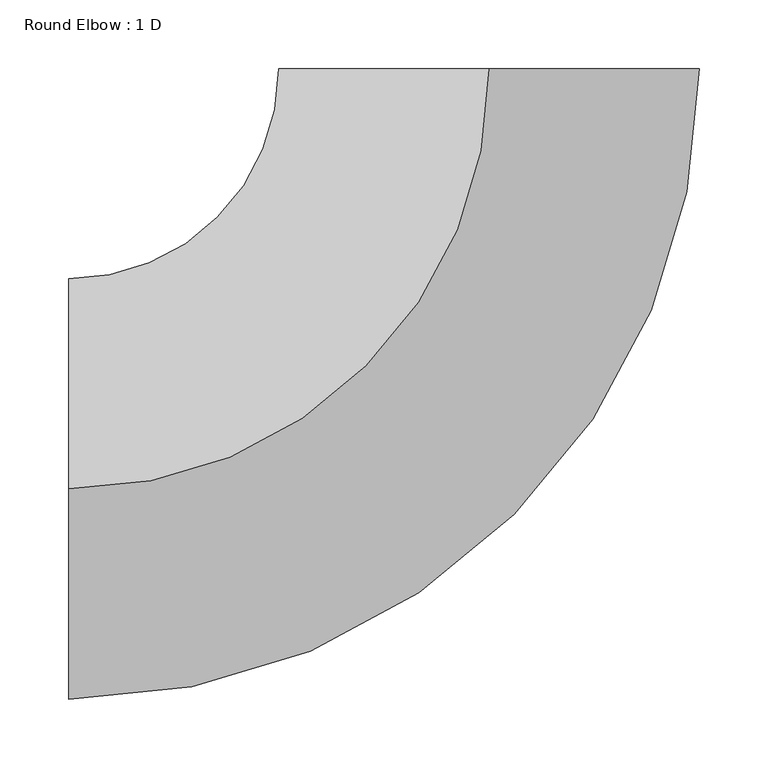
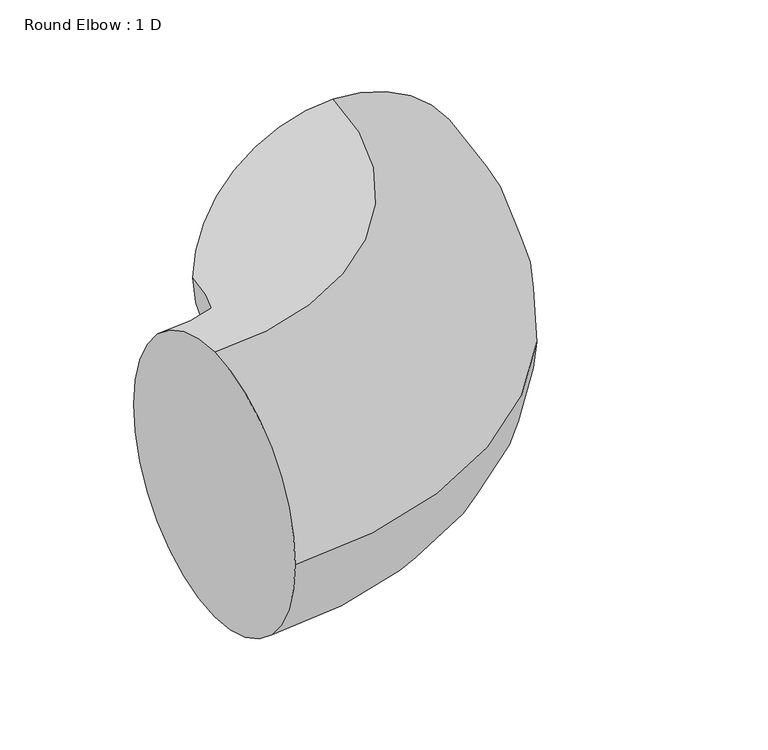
"""IFC4 building model written with IfcOpenShell, lengths in millimetres: duct fitting geometry, Round Elbow : 1 D."""

from ifc_helpers import new_model, si_unit, point, frame, origin, place, context, project, spatial, circle_curve, ellipse_curve, trimmed, source, transform, mapped, element, save
from ifc_brep_helpers import plane_surface, revolved_surface, advanced_brep


def round_elbow_1_d_281bc45b(model_context):
    return source(origin(), model_context, "Body", "AdvancedBrep", [
        advanced_brep(
        [(-304.8, 0.0, 152.4), (-304.8, 152.4, 0.0), (-304.8, 0.0, -152.4), (-304.8, -152.4, 0.0), (0.0, 304.8, 152.4), (152.4, 304.8, 0.0), (0.0, 304.8, -152.4), (-152.4, 304.8, 0.0)],
        [
            (0, 1, circle_curve(frame((-304.8, 0.0, 0.0), z_axis=(-1.0, 0.0, 0.0), x_axis=(0.0, 1.0, 0.0)), 152.4)),
            (1, 2, circle_curve(frame((-304.8, 0.0, 0.0), z_axis=(-1.0, 0.0, 0.0), x_axis=(0.0, 1.0, 0.0)), 152.4)),
            (2, 3, circle_curve(frame((-304.8, 0.0, 0.0), z_axis=(-1.0, 0.0, 0.0), x_axis=(0.0, 1.0, 0.0)), 152.4)),
            (3, 0, circle_curve(frame((-304.8, 0.0, 0.0), z_axis=(-1.0, 0.0, 0.0), x_axis=(0.0, 1.0, 0.0)), 152.4)),
            (4, 5, circle_curve(frame((0.0, 304.8, 0.0), z_axis=(0.0, 1.0, 0.0), x_axis=(-1.0, 0.0, 0.0)), 152.4)),
            (5, 6, circle_curve(frame((0.0, 304.8, 0.0), z_axis=(0.0, 1.0, 0.0), x_axis=(-1.0, 0.0, 0.0)), 152.4)),
            (6, 7, circle_curve(frame((0.0, 304.8, 0.0), z_axis=(0.0, 1.0, 0.0), x_axis=(-1.0, 0.0, 0.0)), 152.4)),
            (7, 4, circle_curve(frame((0.0, 304.8, 0.0), z_axis=(0.0, 1.0, 0.0), x_axis=(-1.0, 0.0, 0.0)), 152.4)),
            (7, 1, circle_curve(frame((-304.8, 304.8, 0.0), z_axis=(0.0, 0.0, -1.0), x_axis=(0.0, -1.0, 0.0)), 152.4)),
            (0, 4, circle_curve(frame((-304.8, 304.8, 152.4), z_axis=(0.0, 0.0, 1.0), x_axis=(0.0, -1.0, 0.0)), 304.8)),
            (6, 2, circle_curve(frame((-304.8, 304.8, -152.4), z_axis=(0.0, 0.0, -1.0), x_axis=(0.0, -1.0, 0.0)), 304.8)),
            (5, 3, circle_curve(frame((-304.8, 304.8, 0.0), z_axis=(0.0, 0.0, -1.0), x_axis=(0.0, -1.0, 0.0)), 457.2)),
        ],
        [
            plane_surface(frame((-304.8, 0.0, 0.0), z_axis=(-1.0, 0.0, 0.0), x_axis=(0.0, 0.0, 1.0))),
            plane_surface(frame((0.0, 304.8, 0.0), z_axis=(0.0, 1.0, 0.0), x_axis=(0.0, 0.0, 1.0))),
            revolved_surface(trimmed(ellipse_curve(frame((-304.8, 0.0, 0.0), z_axis=(-1.0, 0.0, 0.0), x_axis=(0.0, 1.0, 0.0)), 152.4, 152.4), [point((-304.8, 0.0, 152.4))], [point((-304.8, 152.4, 0.0))], True, "CARTESIAN"), (-304.8, 304.8, 0.0), (0.0, 0.0, 1.0)),
            revolved_surface(trimmed(ellipse_curve(frame((-304.8, 0.0, 0.0), z_axis=(-1.0, 0.0, 0.0), x_axis=(0.0, 1.0, 0.0)), 152.4, 152.4), [point((-304.8, 152.4, 0.0))], [point((-304.8, 0.0, -152.4))], True, "CARTESIAN"), (-304.8, 304.8, 0.0), (0.0, 0.0, 1.0)),
            revolved_surface(trimmed(ellipse_curve(frame((-304.8, 0.0, 0.0), z_axis=(-1.0, 0.0, 0.0), x_axis=(0.0, 1.0, 0.0)), 152.4, 152.4), [point((-304.8, 0.0, -152.4))], [point((-304.8, -152.4, 0.0))], True, "CARTESIAN"), (-304.8, 304.8, 0.0), (0.0, 0.0, 1.0)),
            revolved_surface(trimmed(ellipse_curve(frame((-304.8, 0.0, 0.0), z_axis=(-1.0, 0.0, 0.0), x_axis=(0.0, 1.0, 0.0)), 152.4, 152.4), [point((-304.8, -152.4, 0.0))], [point((-304.8, 0.0, 152.4))], True, "CARTESIAN"), (-304.8, 304.8, 0.0), (0.0, 0.0, 1.0)),
        ],
        [
            (0, [[1, 2, 3, 4]]),
            (1, [[5, 6, 7, 8]]),
            (2, [[9, -1, 10, -8]]),
            (3, [[11, -2, -9, -7]]),
            (4, [[12, -3, -11, -6]]),
            (5, [[-10, -4, -12, -5]]),
        ],
    ),
    ])


if __name__ == "__main__":
    model = new_model("IFC4")
    model_context = context("Model", 3, world=origin())
    ifc_project = project(units=[si_unit("LENGTHUNIT", "METRE", prefix="MILLI")], contexts=[model_context])
    site = spatial("IfcSite", under=ifc_project)
    building = spatial("IfcBuilding", under=site)
    placement = place(None, origin())
    round_elbow_1_d_shape = round_elbow_1_d_281bc45b(model_context)
    element("IfcDuctFitting", 1, ObjectType="Round Elbow : 1 D", at=placement, inside=building, context=model_context, shape_type="MappedRepresentation", body=[
        mapped(round_elbow_1_d_shape, transform((0.0, 0.0, 0.0), x_axis=(1.0, 0.0, 0.0), y_axis=(0.0, 1.0, 0.0), z_axis=(0.0, 0.0, 1.0))),
    ])
    save(model, "model.ifc")
